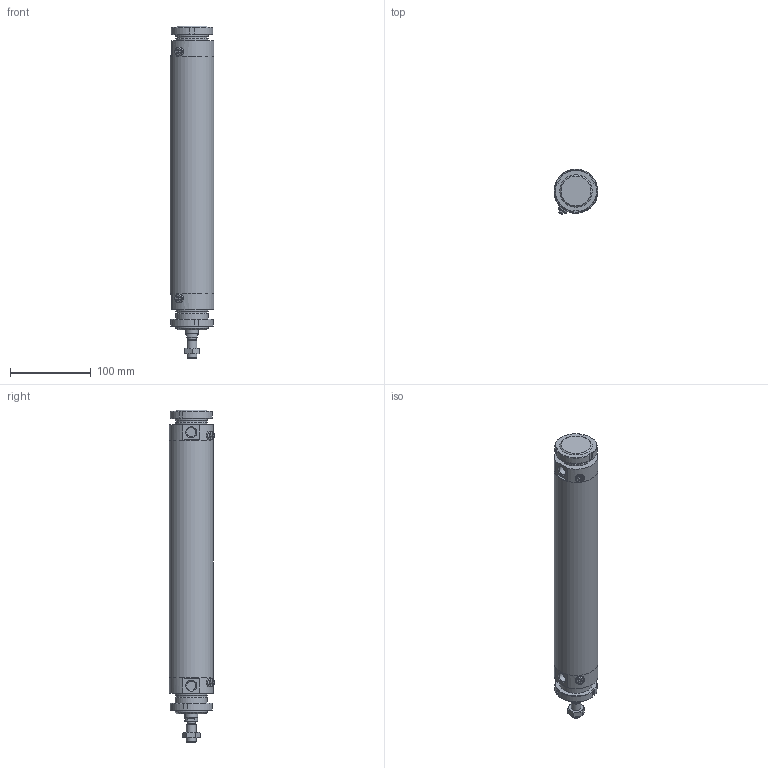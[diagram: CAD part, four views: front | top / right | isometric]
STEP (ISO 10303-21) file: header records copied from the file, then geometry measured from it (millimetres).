
FILE_DESCRIPTION(/* description */ (''),/* implementation_level */ '2;1');
FILE_NAME(/* name */ 'I:\Area Tecnica\Documenti\A-Manieri\_Inventor\12X\12X#C_###_####_#_#\12XBC_050_0250_#_#.stp',/* time_stamp */ '2015-04-28T15:43:59+02:00',/* author */ ('maniean1'),/* organization */ ('Pneumax S.p.A.'),/* preprocessor_version */ 'ST-DEVELOPER v15.2',/* originating_system */ 'Autodesk Inventor 2014',/* authorisation */ '');
FILE_SCHEMA (('AUTOMOTIVE_DESIGN { 1 0 10303 214 3 1 1 }'));
Length unit declared in the file: millimetre
Products named in the file (7): C1250_619-0250; 12X50_606; S12X50_0250; 12X_50_11; 12X50_621; G12X_050_05; 12XBC_050_0250_#_#
Bounding box: 54 x 55.88 x 410 mm (x, y, z)
Volume: 394079.5 mm3; surface area: 156271.5 mm2
Topology: 7 solids, 7 shells, 124 faces, 282 edges, 182 vertices
Faces by surface type: plane 64, cylinder 31, cone 27, torus 2
Full cylindrical faces by diameter (mm): 5 x2, 10.2 x1, 11 x2, 11.4 x2, 12 x2, 14 x1, 15.6 x1, 16 x1, 38.2 x2, 40 x6, 50 x2, 54 x3
Entity records: 2755 total; most frequent: CARTESIAN_POINT 553, DIRECTION 462, ORIENTED_EDGE 356, AXIS2_PLACEMENT_3D 197, EDGE_CURVE 178, EDGE_LOOP 160, VERTEX_POINT 136, ADVANCED_FACE 103
